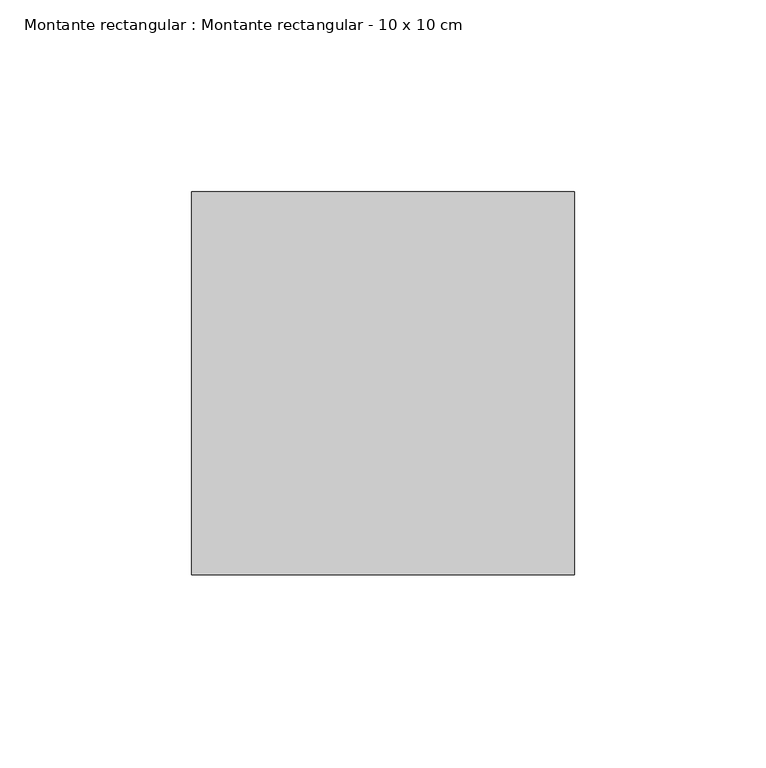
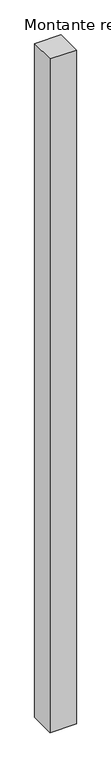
"""IFC4 building model written with IfcOpenShell, lengths in millimetres: member geometry, Montante rectangular : Montante rectangular - 10 x 10 cm."""

from ifc_helpers import new_model, si_unit, frame, origin, place, context, project, spatial, polyline, outline, extrude, source, transform, mapped, element, save


def montante_rectangular_montante_rectangular_10_x_10_cm_1e5e4e1f(model_context):
    return source(origin(), model_context, "Body", "SweptSolid", [
        extrude(outline(polyline([(0.0, 50.0), (0.0, -50.0), (-100.0, -50.0), (-100.0, 50.0), (0.0, 50.0)])), frame((0.0, 0.0, -2700.0), z_axis=(0.0, 0.0, 1.0), x_axis=(1.0, 0.0, 0.0)), (0.0, 0.0, 1.0), 2700.0),
    ])


if __name__ == "__main__":
    model = new_model("IFC4")
    model_context = context("Model", 3, world=origin())
    ifc_project = project(units=[si_unit("LENGTHUNIT", "METRE", prefix="MILLI")], contexts=[model_context])
    site = spatial("IfcSite", under=ifc_project)
    building = spatial("IfcBuilding", under=site)
    placement = place(None, origin())
    montante_rectangular_montante_rectangular_10_x_10_cm_shape = montante_rectangular_montante_rectangular_10_x_10_cm_1e5e4e1f(model_context)
    element("IfcMember", 1, ObjectType="Montante rectangular : Montante rectangular - 10 x 10 cm", at=placement, inside=building, context=model_context, shape_type="MappedRepresentation", body=[
        mapped(montante_rectangular_montante_rectangular_10_x_10_cm_shape, transform((0.0, 0.0, 0.0), x_axis=(1.0, 0.0, 0.0), y_axis=(0.0, 1.0, 0.0), z_axis=(0.0, 0.0, 1.0))),
    ])
    save(model, "model.ifc")
